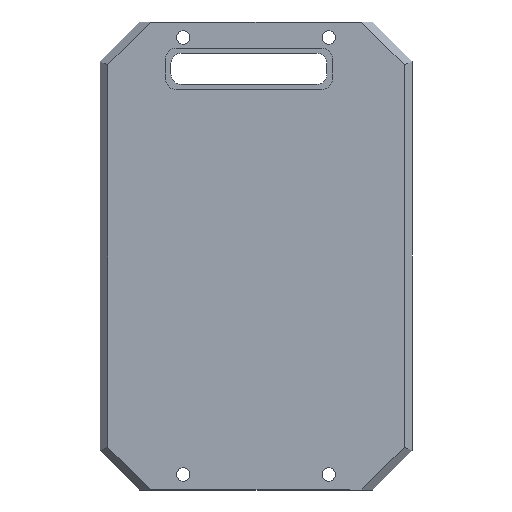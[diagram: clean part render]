
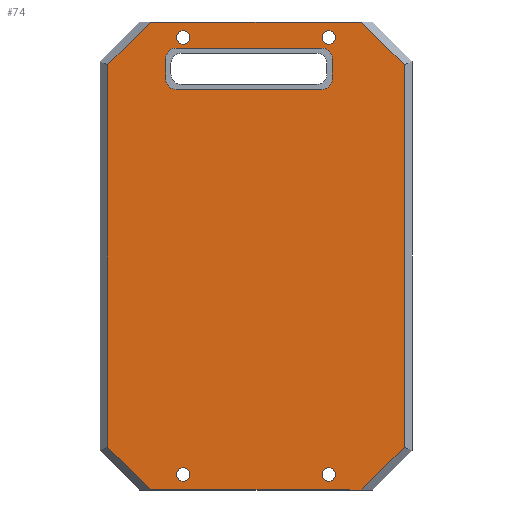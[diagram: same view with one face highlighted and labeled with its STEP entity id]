
A CAD part, front view. The second image highlights one B-rep face of the part: STEP entity #74.
In plain terms, the highlighted planar face has unit normal (0, -1, 0).
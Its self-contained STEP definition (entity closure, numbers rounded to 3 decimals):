
#74=ADVANCED_FACE('',(#176,#177,#178,#179,#180,#125),#529,.T.);
#125=FACE_OUTER_BOUND('',#192,.F.);
#176=FACE_BOUND('',#187,.F.);
#177=FACE_BOUND('',#188,.F.);
#178=FACE_BOUND('',#189,.F.);
#179=FACE_BOUND('',#190,.F.);
#180=FACE_BOUND('',#191,.F.);
#187=EDGE_LOOP('',(#249,#250));
#188=EDGE_LOOP('',(#251,#252));
#189=EDGE_LOOP('',(#253,#254,#255,#256,#257,#258,#259,#260));
#190=EDGE_LOOP('',(#261,#262));
#191=EDGE_LOOP('',(#263,#264));
#192=EDGE_LOOP('',(#265,#266,#267,#268,#269,#270,#271,#272));
#249=ORIENTED_EDGE('',*,*,#765,.T.);
#250=ORIENTED_EDGE('',*,*,#764,.T.);
#251=ORIENTED_EDGE('',*,*,#773,.T.);
#252=ORIENTED_EDGE('',*,*,#772,.T.);
#253=ORIENTED_EDGE('',*,*,#791,.T.);
#254=ORIENTED_EDGE('',*,*,#785,.T.);
#255=ORIENTED_EDGE('',*,*,#790,.T.);
#256=ORIENTED_EDGE('',*,*,#787,.T.);
#257=ORIENTED_EDGE('',*,*,#789,.T.);
#258=ORIENTED_EDGE('',*,*,#786,.T.);
#259=ORIENTED_EDGE('',*,*,#788,.T.);
#260=ORIENTED_EDGE('',*,*,#784,.T.);
#261=ORIENTED_EDGE('',*,*,#769,.T.);
#262=ORIENTED_EDGE('',*,*,#768,.T.);
#263=ORIENTED_EDGE('',*,*,#761,.T.);
#264=ORIENTED_EDGE('',*,*,#760,.T.);
#265=ORIENTED_EDGE('',*,*,#805,.T.);
#266=ORIENTED_EDGE('',*,*,#842,.T.);
#267=ORIENTED_EDGE('',*,*,#807,.T.);
#268=ORIENTED_EDGE('',*,*,#796,.T.);
#269=ORIENTED_EDGE('',*,*,#794,.T.);
#270=ORIENTED_EDGE('',*,*,#841,.T.);
#271=ORIENTED_EDGE('',*,*,#800,.T.);
#272=ORIENTED_EDGE('',*,*,#802,.T.);
#529=PLANE('',#1074);
#564=LINE('',#1533,#664);
#565=LINE('',#1534,#665);
#566=LINE('',#1535,#666);
#567=LINE('',#1536,#667);
#570=LINE('',#1539,#670);
#572=LINE('',#1541,#672);
#576=LINE('',#1545,#676);
#578=LINE('',#1547,#678);
#581=LINE('',#1550,#681);
#583=LINE('',#1552,#683);
#609=LINE('',#1586,#709);
#610=LINE('',#1587,#710);
#664=VECTOR('',#1180,28.);
#665=VECTOR('',#1181,4.);
#666=VECTOR('',#1182,28.);
#667=VECTOR('',#1183,4.);
#670=VECTOR('',#1186,11.655);
#672=VECTOR('',#1188,73.517);
#676=VECTOR('',#1192,11.655);
#678=VECTOR('',#1194,73.517);
#681=VECTOR('',#1197,11.655);
#683=VECTOR('',#1199,11.655);
#709=VECTOR('',#1241,40.517);
#710=VECTOR('',#1242,40.517);
#760=EDGE_CURVE('',#1031,#1030,#900,.T.);
#761=EDGE_CURVE('',#1030,#1031,#901,.T.);
#764=EDGE_CURVE('',#1027,#1026,#904,.T.);
#765=EDGE_CURVE('',#1026,#1027,#905,.T.);
#768=EDGE_CURVE('',#1023,#1022,#908,.T.);
#769=EDGE_CURVE('',#1022,#1023,#909,.T.);
#772=EDGE_CURVE('',#1019,#1018,#912,.T.);
#773=EDGE_CURVE('',#1018,#1019,#913,.T.);
#784=EDGE_CURVE('',#1007,#1006,#920,.T.);
#785=EDGE_CURVE('',#1005,#1004,#921,.T.);
#786=EDGE_CURVE('',#1003,#1002,#922,.T.);
#787=EDGE_CURVE('',#1001,#1000,#923,.T.);
#788=EDGE_CURVE('',#1002,#1007,#564,.T.);
#789=EDGE_CURVE('',#1000,#1003,#565,.T.);
#790=EDGE_CURVE('',#1004,#1001,#566,.T.);
#791=EDGE_CURVE('',#1006,#1005,#567,.T.);
#794=EDGE_CURVE('',#999,#997,#570,.T.);
#796=EDGE_CURVE('',#995,#999,#572,.T.);
#800=EDGE_CURVE('',#990,#992,#576,.T.);
#802=EDGE_CURVE('',#992,#988,#578,.T.);
#805=EDGE_CURVE('',#988,#987,#581,.T.);
#807=EDGE_CURVE('',#984,#995,#583,.T.);
#841=EDGE_CURVE('',#997,#990,#609,.T.);
#842=EDGE_CURVE('',#987,#984,#610,.T.);
#900=CIRCLE('',#1034,1.3);
#901=CIRCLE('',#1035,1.3);
#904=CIRCLE('',#1038,1.3);
#905=CIRCLE('',#1039,1.3);
#908=CIRCLE('',#1042,1.3);
#909=CIRCLE('',#1043,1.3);
#912=CIRCLE('',#1046,1.3);
#913=CIRCLE('',#1047,1.3);
#920=CIRCLE('',#1054,2.);
#921=CIRCLE('',#1055,2.);
#922=CIRCLE('',#1056,2.);
#923=CIRCLE('',#1057,2.);
#984=VERTEX_POINT('',#1457);
#987=VERTEX_POINT('',#1460);
#988=VERTEX_POINT('',#1461);
#990=VERTEX_POINT('',#1463);
#992=VERTEX_POINT('',#1465);
#995=VERTEX_POINT('',#1468);
#997=VERTEX_POINT('',#1470);
#999=VERTEX_POINT('',#1472);
#1000=VERTEX_POINT('',#1473);
#1001=VERTEX_POINT('',#1474);
#1002=VERTEX_POINT('',#1475);
#1003=VERTEX_POINT('',#1476);
#1004=VERTEX_POINT('',#1477);
#1005=VERTEX_POINT('',#1478);
#1006=VERTEX_POINT('',#1479);
#1007=VERTEX_POINT('',#1480);
#1018=VERTEX_POINT('',#1491);
#1019=VERTEX_POINT('',#1492);
#1022=VERTEX_POINT('',#1495);
#1023=VERTEX_POINT('',#1496);
#1026=VERTEX_POINT('',#1499);
#1027=VERTEX_POINT('',#1500);
#1030=VERTEX_POINT('',#1503);
#1031=VERTEX_POINT('',#1504);
#1034=AXIS2_PLACEMENT_3D('',#1505,#1128,#1129);
#1035=AXIS2_PLACEMENT_3D('',#1506,#1130,#1131);
#1038=AXIS2_PLACEMENT_3D('',#1509,#1136,#1137);
#1039=AXIS2_PLACEMENT_3D('',#1510,#1138,#1139);
#1042=AXIS2_PLACEMENT_3D('',#1513,#1144,#1145);
#1043=AXIS2_PLACEMENT_3D('',#1514,#1146,#1147);
#1046=AXIS2_PLACEMENT_3D('',#1517,#1152,#1153);
#1047=AXIS2_PLACEMENT_3D('',#1518,#1154,#1155);
#1054=AXIS2_PLACEMENT_3D('',#1529,#1172,#1173);
#1055=AXIS2_PLACEMENT_3D('',#1530,#1174,#1175);
#1056=AXIS2_PLACEMENT_3D('',#1531,#1176,#1177);
#1057=AXIS2_PLACEMENT_3D('',#1532,#1178,#1179);
#1074=AXIS2_PLACEMENT_3D('',#1645,#1308,#1309);
#1128=DIRECTION('',(0.,-1.,0.));
#1129=DIRECTION('',(0.,0.,-1.));
#1130=DIRECTION('',(0.,-1.,0.));
#1131=DIRECTION('',(0.,0.,1.));
#1136=DIRECTION('',(0.,-1.,0.));
#1137=DIRECTION('',(0.,0.,-1.));
#1138=DIRECTION('',(0.,-1.,0.));
#1139=DIRECTION('',(0.,0.,1.));
#1144=DIRECTION('',(0.,-1.,0.));
#1145=DIRECTION('',(0.,0.,-1.));
#1146=DIRECTION('',(0.,-1.,0.));
#1147=DIRECTION('',(0.,0.,1.));
#1152=DIRECTION('',(0.,-1.,0.));
#1153=DIRECTION('',(0.,0.,-1.));
#1154=DIRECTION('',(0.,-1.,0.));
#1155=DIRECTION('',(0.,0.,1.));
#1172=DIRECTION('',(0.,-1.,0.));
#1173=DIRECTION('',(0.,0.,-1.));
#1174=DIRECTION('',(0.,-1.,0.));
#1175=DIRECTION('',(1.,0.,0.));
#1176=DIRECTION('',(0.,-1.,0.));
#1177=DIRECTION('',(-1.,0.,0.));
#1178=DIRECTION('',(0.,-1.,0.));
#1179=DIRECTION('',(0.,0.,1.));
#1180=DIRECTION('',(1.,0.,0.));
#1181=DIRECTION('',(0.,0.,-1.));
#1182=DIRECTION('',(-1.,0.,0.));
#1183=DIRECTION('',(0.,0.,1.));
#1186=DIRECTION('',(0.707,0.,0.707));
#1188=DIRECTION('',(0.,0.,1.));
#1192=DIRECTION('',(0.707,0.,-0.707));
#1194=DIRECTION('',(0.,0.,-1.));
#1197=DIRECTION('',(-0.707,0.,-0.707));
#1199=DIRECTION('',(-0.707,0.,0.707));
#1241=DIRECTION('',(1.,0.,0.));
#1242=DIRECTION('',(-1.,0.,0.));
#1308=DIRECTION('',(0.,-1.,0.));
#1309=DIRECTION('',(-1.,0.,0.));
#1457=CARTESIAN_POINT('',(-15.502,119.805,-65.027));
#1460=CARTESIAN_POINT('',(25.015,119.805,-65.027));
#1461=CARTESIAN_POINT('',(33.257,119.805,-56.786));
#1463=CARTESIAN_POINT('',(25.015,119.805,24.973));
#1465=CARTESIAN_POINT('',(33.257,119.805,16.732));
#1468=CARTESIAN_POINT('',(-23.743,119.805,-56.786));
#1470=CARTESIAN_POINT('',(-15.502,119.805,24.973));
#1472=CARTESIAN_POINT('',(-23.743,119.805,16.732));
#1473=CARTESIAN_POINT('',(-12.593,119.805,17.973));
#1474=CARTESIAN_POINT('',(-10.593,119.805,19.973));
#1475=CARTESIAN_POINT('',(-10.593,119.805,11.973));
#1476=CARTESIAN_POINT('',(-12.593,119.805,13.973));
#1477=CARTESIAN_POINT('',(17.407,119.805,19.973));
#1478=CARTESIAN_POINT('',(19.407,119.805,17.973));
#1479=CARTESIAN_POINT('',(19.407,119.805,13.973));
#1480=CARTESIAN_POINT('',(17.407,119.805,11.973));
#1491=CARTESIAN_POINT('',(18.757,119.805,23.273));
#1492=CARTESIAN_POINT('',(18.757,119.805,20.673));
#1495=CARTESIAN_POINT('',(-9.243,119.805,23.273));
#1496=CARTESIAN_POINT('',(-9.243,119.805,20.673));
#1499=CARTESIAN_POINT('',(-9.243,119.805,-60.727));
#1500=CARTESIAN_POINT('',(-9.243,119.805,-63.327));
#1503=CARTESIAN_POINT('',(18.757,119.805,-60.727));
#1504=CARTESIAN_POINT('',(18.757,119.805,-63.327));
#1505=CARTESIAN_POINT('',(18.757,119.805,-62.027));
#1506=CARTESIAN_POINT('',(18.757,119.805,-62.027));
#1509=CARTESIAN_POINT('',(-9.243,119.805,-62.027));
#1510=CARTESIAN_POINT('',(-9.243,119.805,-62.027));
#1513=CARTESIAN_POINT('',(-9.243,119.805,21.973));
#1514=CARTESIAN_POINT('',(-9.243,119.805,21.973));
#1517=CARTESIAN_POINT('',(18.757,119.805,21.973));
#1518=CARTESIAN_POINT('',(18.757,119.805,21.973));
#1529=CARTESIAN_POINT('',(17.407,119.805,13.973));
#1530=CARTESIAN_POINT('',(17.407,119.805,17.973));
#1531=CARTESIAN_POINT('',(-10.593,119.805,13.973));
#1532=CARTESIAN_POINT('',(-10.593,119.805,17.973));
#1533=CARTESIAN_POINT('',(-10.593,119.805,11.973));
#1534=CARTESIAN_POINT('',(-12.593,119.805,17.973));
#1535=CARTESIAN_POINT('',(17.407,119.805,19.973));
#1536=CARTESIAN_POINT('',(19.407,119.805,13.973));
#1539=CARTESIAN_POINT('',(-23.743,119.805,16.732));
#1541=CARTESIAN_POINT('',(-23.743,119.805,-56.786));
#1545=CARTESIAN_POINT('',(25.015,119.805,24.973));
#1547=CARTESIAN_POINT('',(33.257,119.805,16.732));
#1550=CARTESIAN_POINT('',(33.257,119.805,-56.786));
#1552=CARTESIAN_POINT('',(-15.502,119.805,-65.027));
#1586=CARTESIAN_POINT('',(-15.502,119.805,24.973));
#1587=CARTESIAN_POINT('',(25.015,119.805,-65.027));
#1645=CARTESIAN_POINT('',(35.657,119.805,25.873));
